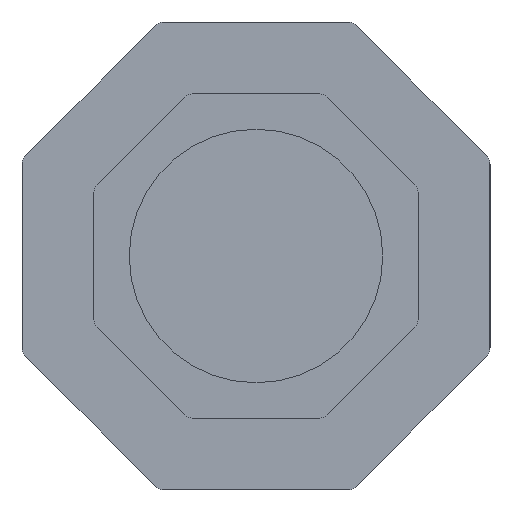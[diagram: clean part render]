
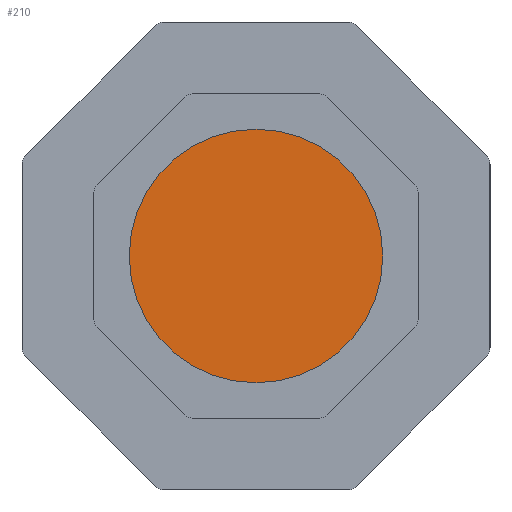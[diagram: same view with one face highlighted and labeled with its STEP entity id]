
A CAD part, left-side view. The second image highlights one B-rep face of the part: STEP entity #210.
In plain terms, the highlighted planar face has unit normal (-1, 0, 0).
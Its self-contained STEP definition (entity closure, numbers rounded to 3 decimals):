
#210=ADVANCED_FACE('',(#1195),#1197,.T.);
#1195=FACE_BOUND('',#1196,.T.);
#1196=EDGE_LOOP('',(#1969));
#1197=PLANE('',#1198);
#1198=AXIS2_PLACEMENT_3D('',#1199,#1200,#1201);
#1199=CARTESIAN_POINT('',(2241.335,1531.167,0.));
#1200=DIRECTION('',(-1.,0.,0.));
#1201=DIRECTION('',(0.,0.,1.));
#1969=ORIENTED_EDGE('',*,*,#2534,.T.);
#2534=EDGE_CURVE('',#2870,#2870,#2871,.T.);
#2870=VERTEX_POINT('',#3478);
#2871=CIRCLE('',#3479,19.5);
#3478=CARTESIAN_POINT('',(2241.335,1511.667,0.));
#3479=AXIS2_PLACEMENT_3D('',#3480,#3481,#3482);
#3480=CARTESIAN_POINT('',(2241.335,1531.167,0.));
#3481=DIRECTION('',(-1.,0.,0.));
#3482=DIRECTION('',(0.,-1.,0.));
